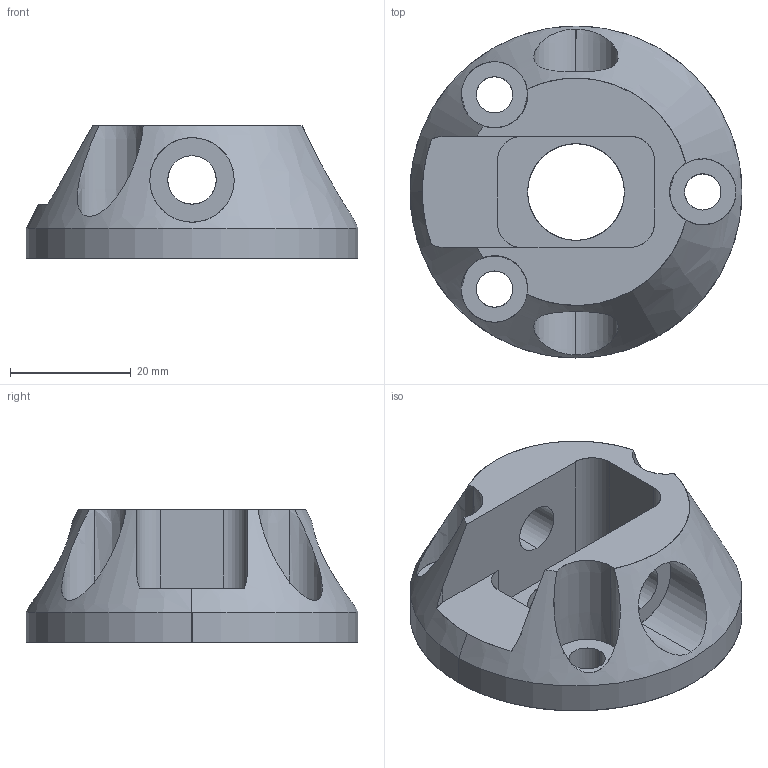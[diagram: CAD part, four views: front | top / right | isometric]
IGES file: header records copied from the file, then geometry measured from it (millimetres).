
Start section: SolidWorks IGES file using analytic representation for surfaces
Global section: file name: G:\Budini\2012\AttaccoSospensione05.IGS; native system: SolidWorks 2010; preprocessor: SolidWorks 2010; author: user; date: 140516.013137; units: millimetre
Bounding box: 55 x 55 x 22 mm (x, y, z)
Surface area: 9952.8 mm2 (no closed solid volume)
Topology: 0 solids, 0 shells, 45 faces, 1209 edges, 1209 vertices
Faces by surface type: revolution 32, bspline 13
